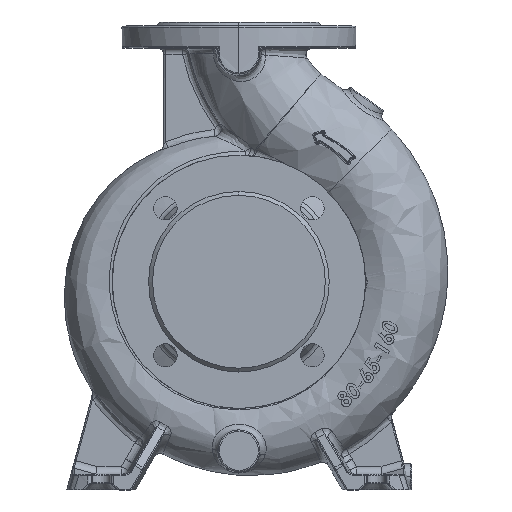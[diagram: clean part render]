
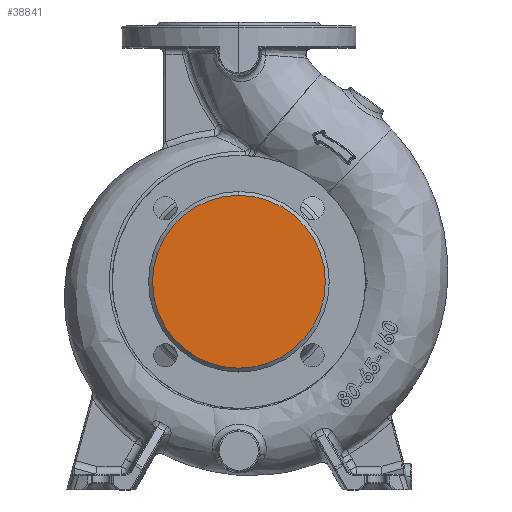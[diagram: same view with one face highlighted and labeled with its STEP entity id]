
A CAD part, top view. The second image highlights one B-rep face of the part: STEP entity #38841.
In plain terms, the highlighted planar face has unit normal (0, 0, 1).
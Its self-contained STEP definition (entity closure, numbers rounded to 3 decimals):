
#460 = EDGE_LOOP ( 'NONE', ( #7791, #44123 ) ) ;
#7791 = ORIENTED_EDGE ( 'NONE', *, *, #45308, .F. ) ;
#8052 = CIRCLE ( 'NONE', #12967, 66.5 ) ;
#12063 = DIRECTION ( 'NONE',  ( 0., 1., 0. ) ) ;
#12967 = AXIS2_PLACEMENT_3D ( 'NONE', #33719, #48073, #61854 ) ;
#13037 = CIRCLE ( 'NONE', #50334, 66.5 ) ;
#14226 = CARTESIAN_POINT ( 'NONE',  ( 0., 0., 100. ) ) ;
#17114 = CARTESIAN_POINT ( 'NONE',  ( 0., 0., 100. ) ) ;
#17792 = DIRECTION ( 'NONE',  ( 0., 0., -1. ) ) ;
#20901 = DIRECTION ( 'NONE',  ( 0., 0., -1. ) ) ;
#20982 = CARTESIAN_POINT ( 'NONE',  ( 0., -66.5, 100. ) ) ;
#26018 = VERTEX_POINT ( 'NONE', #26288 ) ;
#26288 = CARTESIAN_POINT ( 'NONE',  ( 0., 66.5, 100. ) ) ;
#33719 = CARTESIAN_POINT ( 'NONE',  ( 0., 0., 100. ) ) ;
#34559 = EDGE_CURVE ( 'NONE', #37485, #26018, #13037, .T. ) ;
#37485 = VERTEX_POINT ( 'NONE', #20982 ) ;
#38841 = ADVANCED_FACE ( 'NONE', ( #45200 ), #55037, .F. ) ;
#43688 = AXIS2_PLACEMENT_3D ( 'NONE', #17114, #20901, #12063 ) ;
#44123 = ORIENTED_EDGE ( 'NONE', *, *, #34559, .F. ) ;
#45200 = FACE_OUTER_BOUND ( 'NONE', #460, .T. ) ;
#45308 = EDGE_CURVE ( 'NONE', #26018, #37485, #8052, .T. ) ;
#48073 = DIRECTION ( 'NONE',  ( 0., 0., -1. ) ) ;
#50334 = AXIS2_PLACEMENT_3D ( 'NONE', #14226, #17792, #50716 ) ;
#50716 = DIRECTION ( 'NONE',  ( 0., 1., 0. ) ) ;
#55037 = PLANE ( 'NONE',  #43688 ) ;
#61854 = DIRECTION ( 'NONE',  ( 0., 1., 0. ) ) ;
